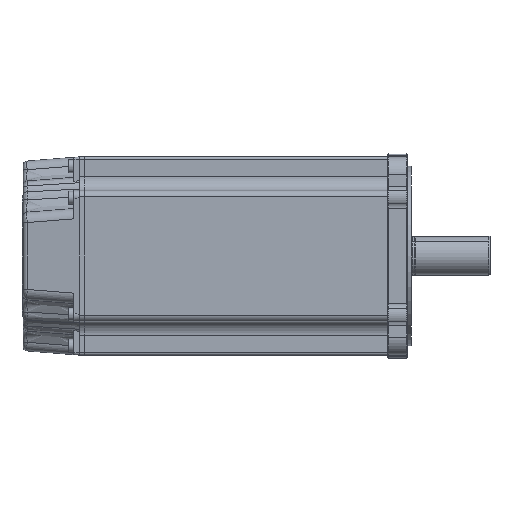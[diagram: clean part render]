
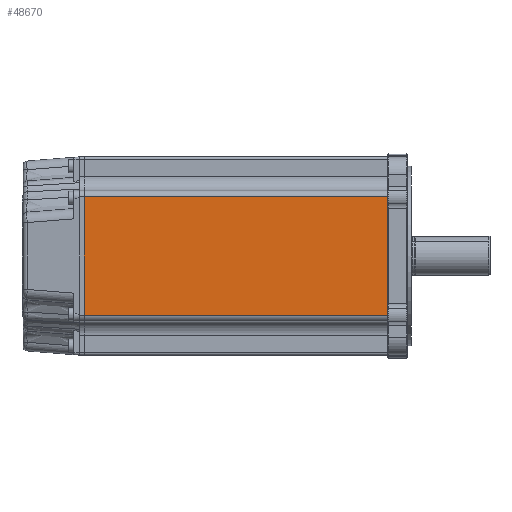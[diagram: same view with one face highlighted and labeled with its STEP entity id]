
A CAD part, front view. The second image highlights one B-rep face of the part: STEP entity #48670.
In plain terms, the highlighted planar face has unit normal (0, -1, 0).
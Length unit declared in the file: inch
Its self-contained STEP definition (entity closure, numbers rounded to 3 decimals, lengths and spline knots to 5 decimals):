
#701 = VERTEX_POINT ( 'NONE', #60881 ) ;
#2445 = CARTESIAN_POINT ( 'NONE',  ( -9.2, -2.825, -2.825 ) ) ;
#3275 = VECTOR ( 'NONE', #35496, 39.37008 ) ;
#6845 = CARTESIAN_POINT ( 'NONE',  ( -0.55, -2.825, -1.6825 ) ) ;
#7039 = CARTESIAN_POINT ( 'NONE',  ( -0.55, -2.825, -2.825 ) ) ;
#8697 = EDGE_CURVE ( 'NONE', #27727, #23485, #55921, .T. ) ;
#8930 = VECTOR ( 'NONE', #38895, 39.37008 ) ;
#9286 = EDGE_CURVE ( 'NONE', #23485, #701, #12234, .T. ) ;
#10670 = CARTESIAN_POINT ( 'NONE',  ( -9.2, -2.825, 1.6825 ) ) ;
#11831 = DIRECTION ( 'NONE',  ( 0., 0., 1. ) ) ;
#12234 = LINE ( 'NONE', #7039, #48368 ) ;
#12823 = EDGE_CURVE ( 'NONE', #701, #22038, #21500, .T. ) ;
#13025 = AXIS2_PLACEMENT_3D ( 'NONE', #45025, #16838, #49803 ) ;
#15881 = LINE ( 'NONE', #2445, #3275 ) ;
#16046 = DIRECTION ( 'NONE',  ( 1., 0., 0. ) ) ;
#16838 = DIRECTION ( 'NONE',  ( 0., 1., 0. ) ) ;
#19753 = VECTOR ( 'NONE', #16046, 39.37008 ) ;
#21500 = LINE ( 'NONE', #10670, #8930 ) ;
#22038 = VERTEX_POINT ( 'NONE', #32610 ) ;
#23485 = VERTEX_POINT ( 'NONE', #6845 ) ;
#27727 = VERTEX_POINT ( 'NONE', #48218 ) ;
#28737 = ORIENTED_EDGE ( 'NONE', *, *, #12823, .T. ) ;
#29865 = EDGE_LOOP ( 'NONE', ( #49962, #28737, #43700, #50564 ) ) ;
#32610 = CARTESIAN_POINT ( 'NONE',  ( -9.2, -2.825, 1.6825 ) ) ;
#35496 = DIRECTION ( 'NONE',  ( 0., 0., 1. ) ) ;
#36156 = EDGE_CURVE ( 'NONE', #27727, #22038, #15881, .T. ) ;
#38895 = DIRECTION ( 'NONE',  ( -1., 0., 0. ) ) ;
#40216 = FACE_OUTER_BOUND ( 'NONE', #29865, .T. ) ;
#43700 = ORIENTED_EDGE ( 'NONE', *, *, #36156, .F. ) ;
#44201 = CARTESIAN_POINT ( 'NONE',  ( -0.55, -2.825, -1.6825 ) ) ;
#44820 = PLANE ( 'NONE',  #13025 ) ;
#45025 = CARTESIAN_POINT ( 'NONE',  ( -9.2, -2.825, -2.825 ) ) ;
#48218 = CARTESIAN_POINT ( 'NONE',  ( -9.2, -2.825, -1.6825 ) ) ;
#48368 = VECTOR ( 'NONE', #11831, 39.37008 ) ;
#48670 = ADVANCED_FACE ( 'NONE', ( #40216 ), #44820, .F. ) ;
#49803 = DIRECTION ( 'NONE',  ( 0., 0., 1. ) ) ;
#49962 = ORIENTED_EDGE ( 'NONE', *, *, #9286, .T. ) ;
#50564 = ORIENTED_EDGE ( 'NONE', *, *, #8697, .T. ) ;
#55921 = LINE ( 'NONE', #44201, #19753 ) ;
#60881 = CARTESIAN_POINT ( 'NONE',  ( -0.55, -2.825, 1.6825 ) ) ;
